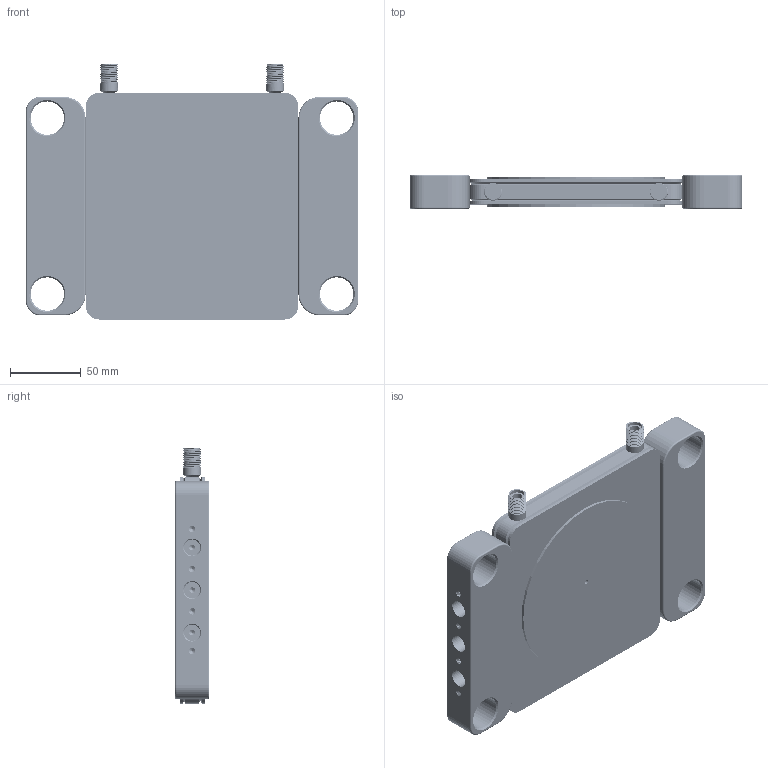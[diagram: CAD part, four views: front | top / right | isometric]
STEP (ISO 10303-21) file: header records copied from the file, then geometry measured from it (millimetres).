
FILE_DESCRIPTION (( 'STEP AP214' ), '1' );
FILE_NAME ('ÍÎÆ_126_ñ_ïëàñòèêîì.STEP', '2025-08-06T15:33:48', ( '' ), ( '' ), 'SwSTEP 2.0', 'SolidWorks 2024', '' );
FILE_SCHEMA (( 'AUTOMOTIVE_DESIGN' ));
Length unit declared in the file: millimetre
Products named in the file (8): корпус; кастомный_ниппель; ЛИРАC (1); socket csink head cap screw 10642_din_EN ISO 10642 - M6 x 30 - 24N; пластик боковой; НОЖлого (1); НОЖ_126_с_пластиком; крышка верхняя
Assembly tree (15 placements, depth 2):
  НОЖ_126_с_пластиком
    корпус
    кастомный_ниппель  x2
    крышка верхняя  x2
    пластик боковой  x2
    socket csink head cap screw 10642_din_EN ISO 10642 - M6 x 30 - 24N  x6
    ЛИРАC (1)
    НОЖлого (1)
Bounding box: 234 x 24.2 x 179.85 mm (x, y, z)
Volume: 595482.7 mm3; surface area: 257381.3 mm2
Topology: 15 solids, 15 shells, 1945 faces, 5235 edges, 3336 vertices
Faces by surface type: cylinder 1099, plane 622, cone 120, bspline 60, torus 44
Entity records: 64220 total; most frequent: CARTESIAN_POINT 35635, ORIENTED_EDGE 6510, DIRECTION 5435, EDGE_CURVE 3255, VERTEX_POINT 2102, AXIS2_PLACEMENT_3D 1872, VECTOR 1691, LINE 1691
